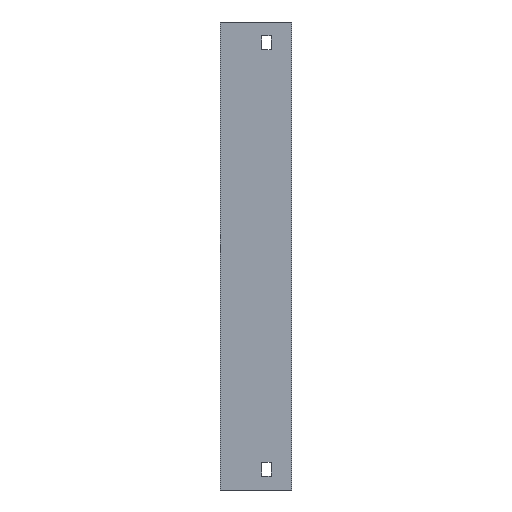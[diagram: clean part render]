
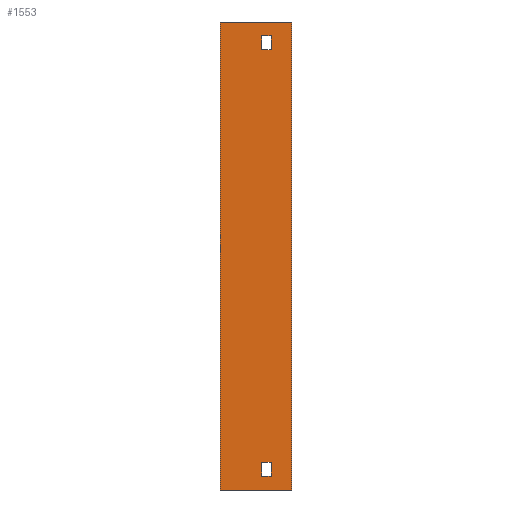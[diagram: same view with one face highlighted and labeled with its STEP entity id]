
A CAD part, left-side view. The second image highlights one B-rep face of the part: STEP entity #1553.
In plain terms, the highlighted planar face has unit normal (-1, 0, 0).
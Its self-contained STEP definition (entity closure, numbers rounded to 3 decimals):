
#33 = VERTEX_POINT ( 'NONE', #1396 ) ;
#35 = LINE ( 'NONE', #657, #596 ) ;
#36 = LINE ( 'NONE', #1638, #1185 ) ;
#68 = EDGE_CURVE ( 'NONE', #1109, #785, #1445, .T. ) ;
#78 = DIRECTION ( 'NONE',  ( 0., 0., 1. ) ) ;
#126 = DIRECTION ( 'NONE',  ( 0., 0., 1. ) ) ;
#149 = AXIS2_PLACEMENT_3D ( 'NONE', #174, #1221, #332 ) ;
#163 = FACE_BOUND ( 'NONE', #1649, .T. ) ;
#166 = LINE ( 'NONE', #176, #1024 ) ;
#174 = CARTESIAN_POINT ( 'NONE',  ( -179., 52., -309. ) ) ;
#176 = CARTESIAN_POINT ( 'NONE',  ( -179., 15., 20. ) ) ;
#177 = CARTESIAN_POINT ( 'NONE',  ( -179., 52., 30. ) ) ;
#239 = VERTEX_POINT ( 'NONE', #728 ) ;
#241 = EDGE_CURVE ( 'NONE', #1351, #513, #260, .T. ) ;
#250 = EDGE_LOOP ( 'NONE', ( #427, #826, #563, #1571 ) ) ;
#256 = DIRECTION ( 'NONE',  ( 0., 0., -1. ) ) ;
#260 = LINE ( 'NONE', #1777, #670 ) ;
#271 = CARTESIAN_POINT ( 'NONE',  ( -179., 22., -299. ) ) ;
#293 = DIRECTION ( 'NONE',  ( 0., 0., 1. ) ) ;
#332 = DIRECTION ( 'NONE',  ( 0., 0., -1. ) ) ;
#338 = CARTESIAN_POINT ( 'NONE',  ( -179., 22., 20. ) ) ;
#348 = LINE ( 'NONE', #1565, #1654 ) ;
#358 = ORIENTED_EDGE ( 'NONE', *, *, #1841, .T. ) ;
#373 = CARTESIAN_POINT ( 'NONE',  ( -179., 15., -299. ) ) ;
#383 = VECTOR ( 'NONE', #932, 1000. ) ;
#427 = ORIENTED_EDGE ( 'NONE', *, *, #929, .T. ) ;
#442 = DIRECTION ( 'NONE',  ( 0., -1., 0. ) ) ;
#466 = VECTOR ( 'NONE', #256, 1000. ) ;
#501 = EDGE_CURVE ( 'NONE', #33, #1205, #1893, .T. ) ;
#512 = ORIENTED_EDGE ( 'NONE', *, *, #68, .F. ) ;
#513 = VERTEX_POINT ( 'NONE', #550 ) ;
#537 = EDGE_CURVE ( 'NONE', #1532, #666, #166, .T. ) ;
#550 = CARTESIAN_POINT ( 'NONE',  ( -179., 22., 20. ) ) ;
#563 = ORIENTED_EDGE ( 'NONE', *, *, #1037, .F. ) ;
#596 = VECTOR ( 'NONE', #1257, 1000. ) ;
#657 = CARTESIAN_POINT ( 'NONE',  ( -179., 22., 10. ) ) ;
#660 = CARTESIAN_POINT ( 'NONE',  ( -179., 22., -299. ) ) ;
#666 = VERTEX_POINT ( 'NONE', #805 ) ;
#670 = VECTOR ( 'NONE', #126, 1000. ) ;
#687 = EDGE_CURVE ( 'NONE', #785, #33, #793, .T. ) ;
#703 = VECTOR ( 'NONE', #442, 1000. ) ;
#724 = CARTESIAN_POINT ( 'NONE',  ( -179., 52., -309. ) ) ;
#728 = CARTESIAN_POINT ( 'NONE',  ( -179., 52., 30. ) ) ;
#785 = VERTEX_POINT ( 'NONE', #845 ) ;
#793 = LINE ( 'NONE', #1862, #1439 ) ;
#805 = CARTESIAN_POINT ( 'NONE',  ( -179., 15., 10. ) ) ;
#821 = DIRECTION ( 'NONE',  ( 0., -1., 0. ) ) ;
#826 = ORIENTED_EDGE ( 'NONE', *, *, #1382, .F. ) ;
#845 = CARTESIAN_POINT ( 'NONE',  ( -179., 15., -289. ) ) ;
#867 = ORIENTED_EDGE ( 'NONE', *, *, #241, .T. ) ;
#889 = FACE_OUTER_BOUND ( 'NONE', #250, .T. ) ;
#929 = EDGE_CURVE ( 'NONE', #1274, #1888, #1678, .T. ) ;
#932 = DIRECTION ( 'NONE',  ( 0., -1., 0. ) ) ;
#940 = DIRECTION ( 'NONE',  ( 0., 1., 0. ) ) ;
#957 = LINE ( 'NONE', #660, #1807 ) ;
#1024 = VECTOR ( 'NONE', #1646, 1000. ) ;
#1026 = EDGE_CURVE ( 'NONE', #513, #1532, #1682, .T. ) ;
#1037 = EDGE_CURVE ( 'NONE', #1352, #239, #36, .T. ) ;
#1080 = CARTESIAN_POINT ( 'NONE',  ( -179., 15., -299. ) ) ;
#1105 = EDGE_LOOP ( 'NONE', ( #1144, #1254, #1141, #512 ) ) ;
#1109 = VERTEX_POINT ( 'NONE', #1080 ) ;
#1141 = ORIENTED_EDGE ( 'NONE', *, *, #687, .F. ) ;
#1144 = ORIENTED_EDGE ( 'NONE', *, *, #1668, .F. ) ;
#1185 = VECTOR ( 'NONE', #293, 1000. ) ;
#1205 = VERTEX_POINT ( 'NONE', #1271 ) ;
#1216 = DIRECTION ( 'NONE',  ( 0., 0., 1. ) ) ;
#1221 = DIRECTION ( 'NONE',  ( 1., 0., 0. ) ) ;
#1254 = ORIENTED_EDGE ( 'NONE', *, *, #501, .F. ) ;
#1257 = DIRECTION ( 'NONE',  ( 0., 1., 0. ) ) ;
#1271 = CARTESIAN_POINT ( 'NONE',  ( -179., 22., -299. ) ) ;
#1274 = VERTEX_POINT ( 'NONE', #1886 ) ;
#1351 = VERTEX_POINT ( 'NONE', #1353 ) ;
#1352 = VERTEX_POINT ( 'NONE', #724 ) ;
#1353 = CARTESIAN_POINT ( 'NONE',  ( -179., 22., 10. ) ) ;
#1382 = EDGE_CURVE ( 'NONE', #239, #1888, #1790, .T. ) ;
#1387 = CARTESIAN_POINT ( 'NONE',  ( -179., 15., 20. ) ) ;
#1396 = CARTESIAN_POINT ( 'NONE',  ( -179., 22., -289. ) ) ;
#1439 = VECTOR ( 'NONE', #940, 1000. ) ;
#1445 = LINE ( 'NONE', #373, #1899 ) ;
#1532 = VERTEX_POINT ( 'NONE', #1387 ) ;
#1553 = ADVANCED_FACE ( 'NONE', ( #889, #163, #1667 ), #1810, .F. ) ;
#1565 = CARTESIAN_POINT ( 'NONE',  ( -179., 52., -309. ) ) ;
#1571 = ORIENTED_EDGE ( 'NONE', *, *, #1855, .T. ) ;
#1578 = ORIENTED_EDGE ( 'NONE', *, *, #1026, .T. ) ;
#1618 = ORIENTED_EDGE ( 'NONE', *, *, #537, .T. ) ;
#1638 = CARTESIAN_POINT ( 'NONE',  ( -179., 52., -309. ) ) ;
#1646 = DIRECTION ( 'NONE',  ( 0., 0., -1. ) ) ;
#1649 = EDGE_LOOP ( 'NONE', ( #867, #1578, #1618, #358 ) ) ;
#1654 = VECTOR ( 'NONE', #1839, 1000. ) ;
#1667 = FACE_BOUND ( 'NONE', #1105, .T. ) ;
#1668 = EDGE_CURVE ( 'NONE', #1205, #1109, #957, .T. ) ;
#1678 = LINE ( 'NONE', #1793, #1859 ) ;
#1681 = CARTESIAN_POINT ( 'NONE',  ( -179., 0., 30. ) ) ;
#1682 = LINE ( 'NONE', #338, #383 ) ;
#1777 = CARTESIAN_POINT ( 'NONE',  ( -179., 22., 20. ) ) ;
#1790 = LINE ( 'NONE', #177, #703 ) ;
#1793 = CARTESIAN_POINT ( 'NONE',  ( -179., 0., -309. ) ) ;
#1807 = VECTOR ( 'NONE', #821, 1000. ) ;
#1810 = PLANE ( 'NONE',  #149 ) ;
#1839 = DIRECTION ( 'NONE',  ( 0., -1., 0. ) ) ;
#1841 = EDGE_CURVE ( 'NONE', #666, #1351, #35, .T. ) ;
#1855 = EDGE_CURVE ( 'NONE', #1352, #1274, #348, .T. ) ;
#1859 = VECTOR ( 'NONE', #1216, 1000. ) ;
#1862 = CARTESIAN_POINT ( 'NONE',  ( -179., 22., -289. ) ) ;
#1886 = CARTESIAN_POINT ( 'NONE',  ( -179., 0., -309. ) ) ;
#1888 = VERTEX_POINT ( 'NONE', #1681 ) ;
#1893 = LINE ( 'NONE', #271, #466 ) ;
#1899 = VECTOR ( 'NONE', #78, 1000. ) ;
